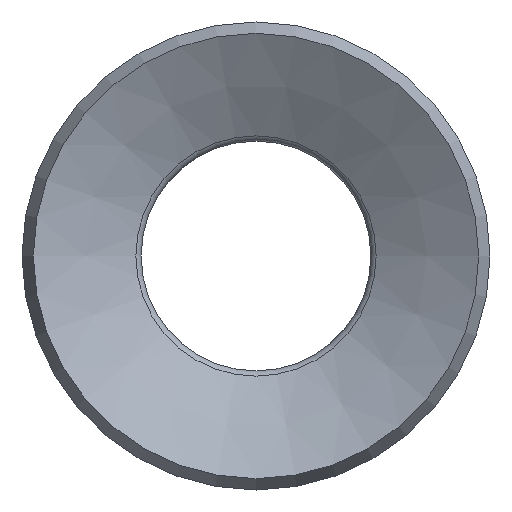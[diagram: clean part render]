
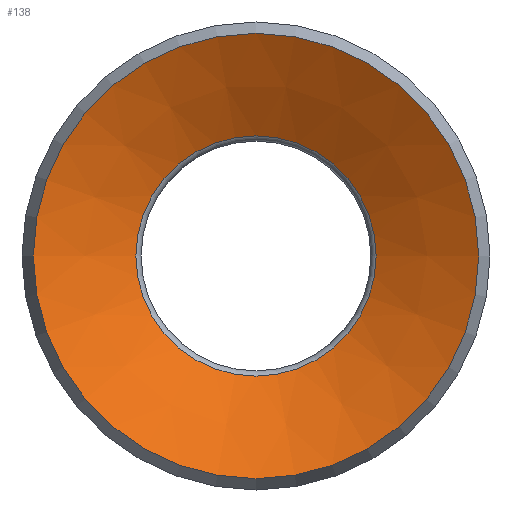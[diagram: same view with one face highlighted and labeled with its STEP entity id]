
A CAD part, front view. The second image highlights one B-rep face of the part: STEP entity #138.
In plain terms, the highlighted conical face has half-angle 60.423 degrees and reference radius 2.091 mm.
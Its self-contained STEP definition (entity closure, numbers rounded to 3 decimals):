
#6 = AXIS2_PLACEMENT_3D ( 'NONE', #488, #237, #317 ) ;
#12 = DIRECTION ( 'NONE',  ( 0., 1., 0. ) ) ;
#27 = CARTESIAN_POINT ( 'NONE',  ( 382.111, -11.488, 0. ) ) ;
#36 = CIRCLE ( 'NONE', #39, 2.091 ) ;
#39 = AXIS2_PLACEMENT_3D ( 'NONE', #185, #12, #539 ) ;
#54 = ORIENTED_EDGE ( 'NONE', *, *, #306, .T. ) ;
#82 = VERTEX_POINT ( 'NONE', #27 ) ;
#102 = DIRECTION ( 'NONE',  ( -1., 0., 0. ) ) ;
#120 = CARTESIAN_POINT ( 'NONE',  ( 380.325, -12.501, 0. ) ) ;
#138 = ADVANCED_FACE ( 'NONE', ( #149, #515 ), #461, .F. ) ;
#149 = FACE_OUTER_BOUND ( 'NONE', #350, .T. ) ;
#154 = ORIENTED_EDGE ( 'NONE', *, *, #202, .F. ) ;
#176 = VERTEX_POINT ( 'NONE', #120 ) ;
#185 = CARTESIAN_POINT ( 'NONE',  ( 384.202, -11.488, 0. ) ) ;
#190 = EDGE_LOOP ( 'NONE', ( #54 ) ) ;
#202 = EDGE_CURVE ( 'NONE', #176, #176, #215, .T. ) ;
#215 = CIRCLE ( 'NONE', #383, 3.876 ) ;
#237 = DIRECTION ( 'NONE',  ( 0., -1., 0. ) ) ;
#290 = DIRECTION ( 'NONE',  ( 0., 1., 0. ) ) ;
#306 = EDGE_CURVE ( 'NONE', #82, #82, #36, .T. ) ;
#317 = DIRECTION ( 'NONE',  ( 1., 0., 0. ) ) ;
#331 = CARTESIAN_POINT ( 'NONE',  ( 384.202, -12.501, 0. ) ) ;
#350 = EDGE_LOOP ( 'NONE', ( #154 ) ) ;
#383 = AXIS2_PLACEMENT_3D ( 'NONE', #331, #290, #102 ) ;
#461 = CONICAL_SURFACE ( 'NONE', #6, 2.091, 1.055 ) ;
#488 = CARTESIAN_POINT ( 'NONE',  ( 384.202, -11.488, 0. ) ) ;
#515 = FACE_BOUND ( 'NONE', #190, .T. ) ;
#539 = DIRECTION ( 'NONE',  ( -1., 0., 0. ) ) ;
